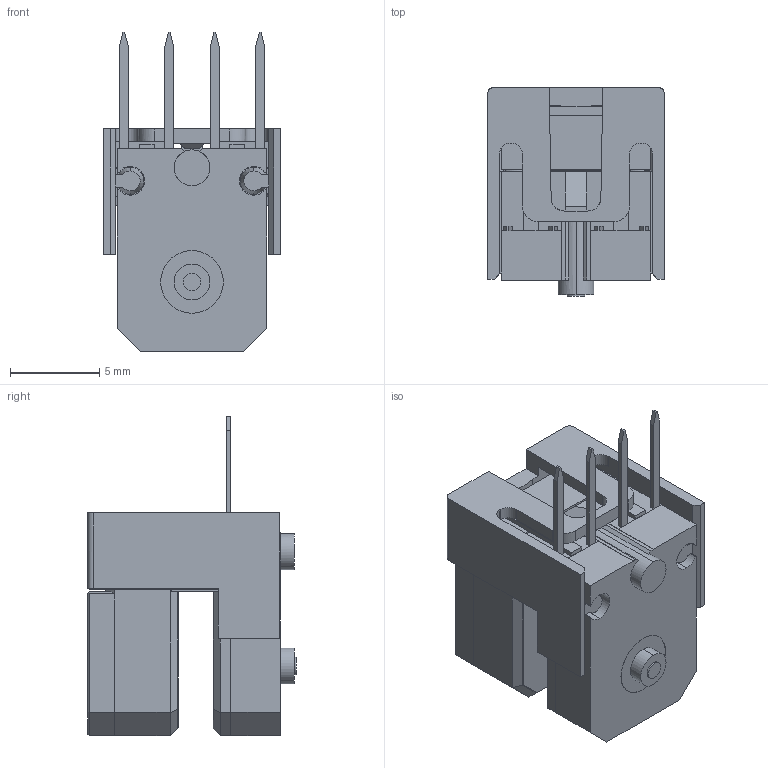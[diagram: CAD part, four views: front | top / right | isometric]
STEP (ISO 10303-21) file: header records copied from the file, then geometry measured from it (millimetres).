
FILE_DESCRIPTION (( 'STEP AP214' ), '1' );
FILE_NAME ('RS97眻褒祥湍嫉嗡.STEP', '2024-05-30T05:11:05', ( 'dell' ), ( '' ), 'SwSTEP 2.0', 'SolidWorks 2021', '' );
FILE_SCHEMA (( 'AUTOMOTIVE_DESIGN' ));
Length unit declared in the file: millimetre
Products named in the file (1): RS97眻褒祥湍嫉嗡
Bounding box: 9.85 x 11.65 x 17.85 mm (x, y, z)
Volume: 954.5 mm3; surface area: 1334.9 mm2
Topology: 11 solids, 11 shells, 311 faces, 803 edges, 515 vertices
Faces by surface type: plane 215, cylinder 72, bspline 16, cone 8
Entity records: 13845 total; most frequent: CARTESIAN_POINT 2929, ORIENTED_EDGE 1602, DIRECTION 1374, EDGE_CURVE 801, VECTOR 606, LINE 606, VERTEX_POINT 515, AXIS2_PLACEMENT_3D 384
